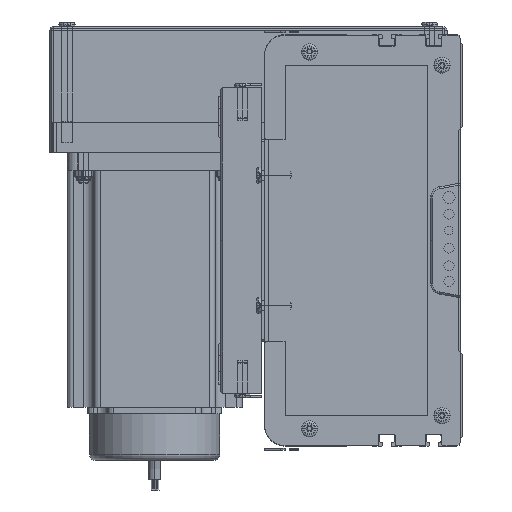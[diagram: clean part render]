
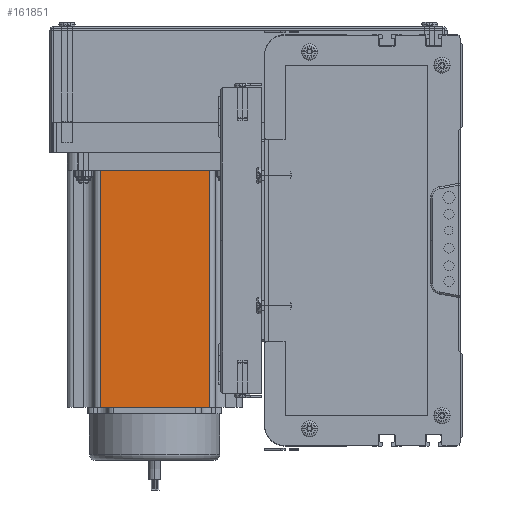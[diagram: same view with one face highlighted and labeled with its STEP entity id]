
A CAD part, left-side view. The second image highlights one B-rep face of the part: STEP entity #161851.
In plain terms, the highlighted planar face has unit normal (-1, 0, 0) as drawn and (0, -1, 0) by its records, which use the part's own axes.
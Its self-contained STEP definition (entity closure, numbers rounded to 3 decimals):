
#43934 = CARTESIAN_POINT ( 'NONE',  ( 69.74, 0., 116.5 ) ) ;
#44192 = LINE ( 'NONE', #44477, #44476 ) ;
#44474 = DIRECTION ( 'NONE',  ( 1., 0., 0. ) ) ;
#44476 = VECTOR ( 'NONE', #44474, 1000. ) ;
#44477 = CARTESIAN_POINT ( 'NONE',  ( 0., 0., 0. ) ) ;
#44636 = CARTESIAN_POINT ( 'NONE',  ( 69.74, 0., 116.5 ) ) ;
#44639 = LINE ( 'NONE', #44636, #44681 ) ;
#44680 = DIRECTION ( 'NONE',  ( 0., 0., 1. ) ) ;
#44681 = VECTOR ( 'NONE', #44680, 1000. ) ;
#44758 = AXIS2_PLACEMENT_3D ( 'NONE', #44951, #45017, #45015 ) ;
#44951 = CARTESIAN_POINT ( 'NONE',  ( 0., 0., 116.5 ) ) ;
#44974 = PLANE ( 'NONE',  #44758 ) ;
#45015 = DIRECTION ( 'NONE',  ( 0., 0., 1. ) ) ;
#45017 = DIRECTION ( 'NONE',  ( 0., 1., 0. ) ) ;
#45115 = FACE_OUTER_BOUND ( 'NONE', #134052, .T. ) ;
#45299 = DIRECTION ( 'NONE',  ( 0., 0., -1. ) ) ;
#45300 = VECTOR ( 'NONE', #45299, 1000. ) ;
#45306 = CARTESIAN_POINT ( 'NONE',  ( 16.16, 0., 116.5 ) ) ;
#45309 = DIRECTION ( 'NONE',  ( 1., 0., 0. ) ) ;
#45310 = VECTOR ( 'NONE', #45309, 1000. ) ;
#45311 = LINE ( 'NONE', #45306, #45300 ) ;
#45324 = CARTESIAN_POINT ( 'NONE',  ( 16.16, 0., 116.5 ) ) ;
#45329 = CARTESIAN_POINT ( 'NONE',  ( 16.16, 0., 0. ) ) ;
#45330 = CARTESIAN_POINT ( 'NONE',  ( 69.74, 0., 0. ) ) ;
#45828 = CARTESIAN_POINT ( 'NONE',  ( 0., 0., 116.5 ) ) ;
#45830 = LINE ( 'NONE', #45828, #45310 ) ;
#134052 = EDGE_LOOP ( 'NONE', ( #162102, #161977, #162156, #161909 ) ) ;
#161453 = VERTEX_POINT ( 'NONE', #43934 ) ;
#161460 = EDGE_CURVE ( 'NONE', #162152, #162151, #44192, .T. ) ;
#161621 = EDGE_CURVE ( 'NONE', #162151, #161453, #44639, .T. ) ;
#161851 = ADVANCED_FACE ( 'NONE', ( #45115 ), #44974, .F. ) ;
#161909 = ORIENTED_EDGE ( 'NONE', *, *, #161982, .T. ) ;
#161977 = ORIENTED_EDGE ( 'NONE', *, *, #161621, .T. ) ;
#161980 = EDGE_CURVE ( 'NONE', #162149, #161453, #45830, .T. ) ;
#161982 = EDGE_CURVE ( 'NONE', #162149, #162152, #45311, .T. ) ;
#162102 = ORIENTED_EDGE ( 'NONE', *, *, #161460, .T. ) ;
#162149 = VERTEX_POINT ( 'NONE', #45324 ) ;
#162151 = VERTEX_POINT ( 'NONE', #45330 ) ;
#162152 = VERTEX_POINT ( 'NONE', #45329 ) ;
#162156 = ORIENTED_EDGE ( 'NONE', *, *, #161980, .F. ) ;
